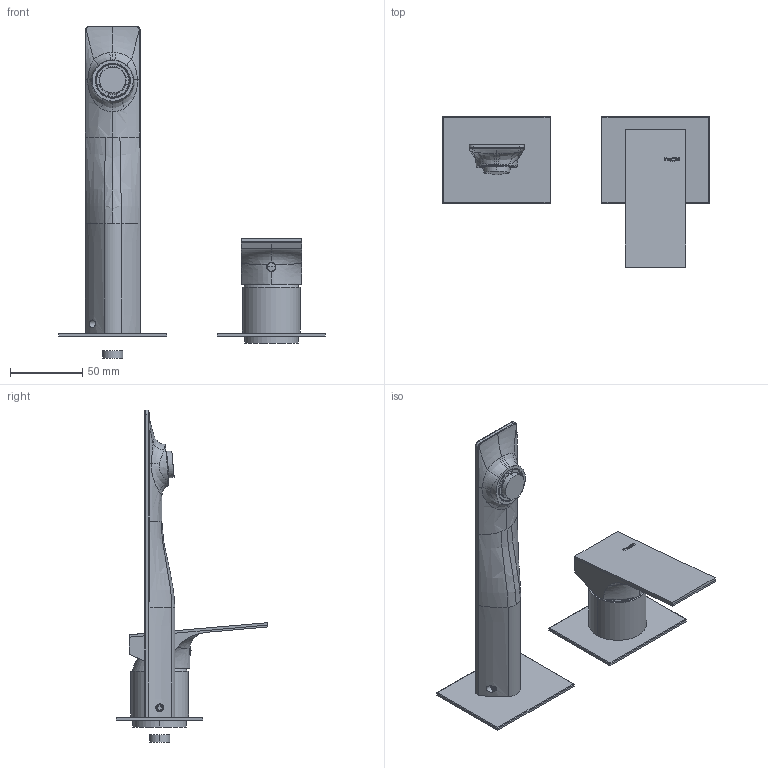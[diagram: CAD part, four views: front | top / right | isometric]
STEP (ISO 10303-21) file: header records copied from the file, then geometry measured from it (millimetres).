
FILE_DESCRIPTION((''),'2;1');
FILE_NAME('87547_ASM','2024-12-18T16:24:53',('volponeff'),(''),'CREO PARAMETRIC BY PTC INC, 2022014','CREO PARAMETRIC BY PTC INC, 2022014','');
FILE_SCHEMA(('CONFIG_CONTROL_DESIGN'));
Products named in the file (25): D507000535_AF0; D451D50353_AF0; A503E90162_AF0; P507000577_AF0_ASM; D517C90325_AF0; A503B60010; A503B60025_AF0; P517C90627_AF0_ASM; D458C70673_AF0; A503B60092_AF0; A536A80115; A450000067; P458000677_AF0_ASM; D465000187_AF0; A302D40038_AF0; D494C90058; D460000139; D500001404_GEN; D511000162; A536A80109; P765XX0570_ASM; D507000538_AF0; D451D50351_AF0; P507000586_AF0_ASM; 87547_ASM
Assembly tree (25 placements, depth 3):
  87547_ASM
    P507000577_AF0_ASM
      D507000535_AF0
      D451D50353_AF0
      A503E90162_AF0
    P517C90627_AF0_ASM
      D517C90325_AF0
      A503B60010  x2
      A503B60025_AF0
    P458000677_AF0_ASM
      D458C70673_AF0
      A503B60092_AF0
      A536A80115
      A450000067
    D465000187_AF0
    A302D40038_AF0
    D494C90058
    D460000139
    D500001404_GEN
    P765XX0570_ASM
      D511000162
      A536A80109
    P507000586_AF0_ASM
      D507000538_AF0
      D451D50351_AF0
Bounding box: 185 x 104.84 x 230.2 mm (x, y, z)
Volume: 148468.2 mm3; surface area: 104844.3 mm2
Topology: 17 solids, 29 shells, 1087 faces, 2933 edges, 1909 vertices
Faces by surface type: cylinder 371, plane 366, torus 96, bspline 91, extrusion 72, cone 71, sphere 20
Entity records: 54137 total; most frequent: CARTESIAN_POINT 26956, ORIENTED_EDGE 5785, DIRECTION 5302, EDGE_CURVE 2919, AXIS2_PLACEMENT_3D 1955, VERTEX_POINT 1905, VECTOR 1392, LINE 1320
